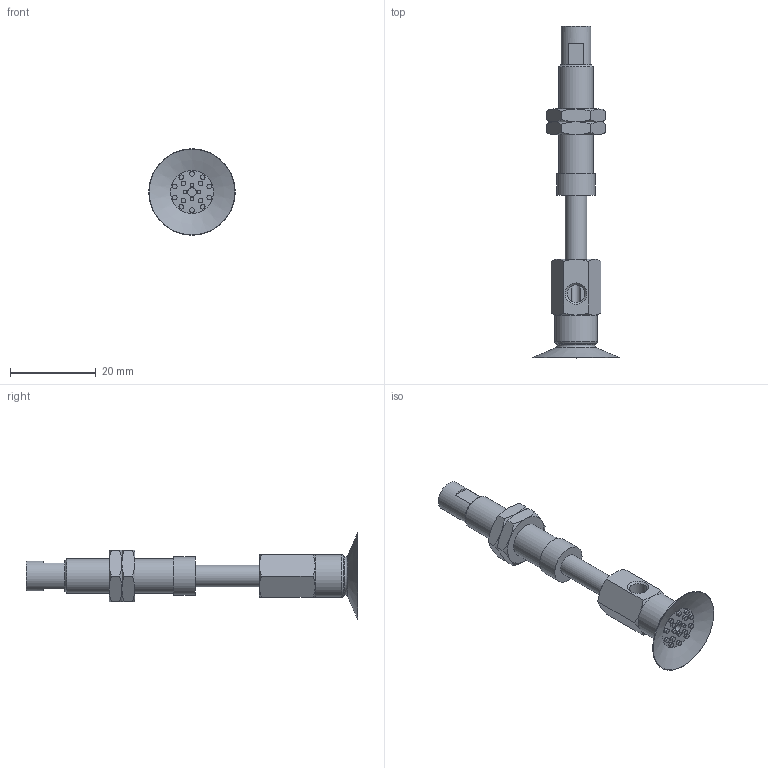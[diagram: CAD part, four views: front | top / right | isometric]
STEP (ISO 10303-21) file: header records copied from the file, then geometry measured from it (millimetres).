
FILE_DESCRIPTION(('STEP AP203'),'1');
FILE_NAME('.stp','2025-02-18T01:23:51',(' '),(' '),'Spatial InterOp 3D',' ',' ');
FILE_SCHEMA(('CONFIG_CONTROL_DESIGN'));
Length unit declared in the file: millimetre
Products named in the file (6): BNABPAYS-20A-15-※; NAPAYS-20A-15--M; NAPAYS-20A-15--F; Nut-10A-S; CONNECTOR-20A-15-PA; BPAG-20A-※_3D
Assembly tree (6 placements, depth 2):
  BNABPAYS-20A-15-※
    NAPAYS-20A-15--M
    NAPAYS-20A-15--F
    Nut-10A-S  x2
    CONNECTOR-20A-15-PA
    BPAG-20A-※_3D
Bounding box: 20.19 x 77.5 x 20.19 mm (x, y, z)
Volume: 4258.5 mm3; surface area: 5367 mm2
Topology: 6 solids, 6 shells, 165 faces, 326 edges, 200 vertices
Faces by surface type: plane 69, cone 51, cylinder 35, torus 10
Full cylindrical faces by diameter (mm): 0.9 x4, 1.1 x14, 2 x2, 4 x2, 4.134 x2, 5 x3, 6 x2, 7 x1, 7.188 x2, 8 x1, 9 x1, 10 x1
Entity records: 3828 total; most frequent: CARTESIAN_POINT 873, DIRECTION 576, ORIENTED_EDGE 426, AXIS2_PLACEMENT_3D 268, EDGE_LOOP 234, EDGE_CURVE 213, FACE_OUTER_BOUND 186, VERTEX_POINT 163
